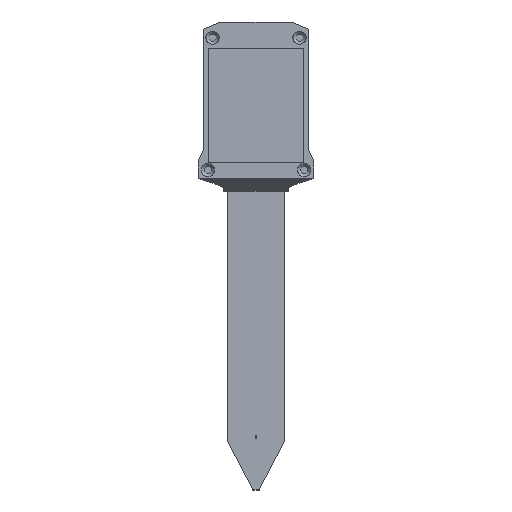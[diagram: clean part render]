
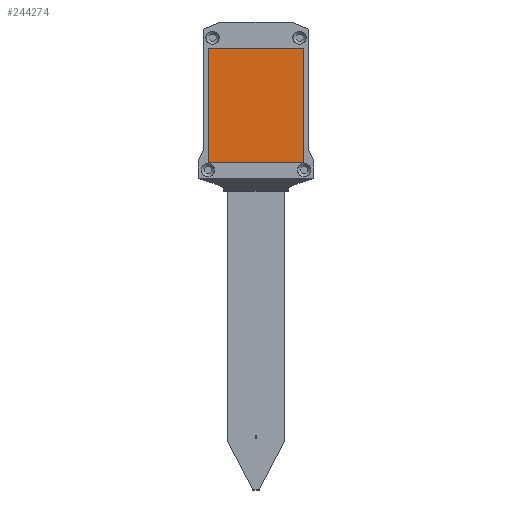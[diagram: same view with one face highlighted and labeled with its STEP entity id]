
A CAD part, top view. The second image highlights one B-rep face of the part: STEP entity #244274.
In plain terms, the highlighted planar face has unit normal (0, 0, 1).
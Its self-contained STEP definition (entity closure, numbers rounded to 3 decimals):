
#243960 = VERTEX_POINT('',#243961);
#243961 = CARTESIAN_POINT('',(-15.,104.,6.3));
#243968 = PLANE('',#243969);
#243969 = AXIS2_PLACEMENT_3D('',#243970,#243971,#243972);
#243970 = CARTESIAN_POINT('',(-15.,104.,4.9));
#243971 = DIRECTION('',(1.,0.,-0.));
#243972 = DIRECTION('',(0.,0.,1.));
#243980 = PLANE('',#243981);
#243981 = AXIS2_PLACEMENT_3D('',#243982,#243983,#243984);
#243982 = CARTESIAN_POINT('',(-15.,104.,4.9));
#243983 = DIRECTION('',(-0.,1.,0.));
#243984 = DIRECTION('',(0.,0.,1.));
#244021 = VERTEX_POINT('',#244022);
#244022 = CARTESIAN_POINT('',(-15.,140.,6.3));
#244036 = PLANE('',#244037);
#244037 = AXIS2_PLACEMENT_3D('',#244038,#244039,#244040);
#244038 = CARTESIAN_POINT('',(-15.,140.,4.9));
#244039 = DIRECTION('',(-0.,1.,0.));
#244040 = DIRECTION('',(0.,0.,1.));
#244048 = EDGE_CURVE('',#243960,#244021,#244049,.T.);
#244049 = SURFACE_CURVE('',#244050,(#244054,#244061),.PCURVE_S1.);
#244050 = LINE('',#244051,#244052);
#244051 = CARTESIAN_POINT('',(-15.,104.,6.3));
#244052 = VECTOR('',#244053,1.);
#244053 = DIRECTION('',(-0.,1.,0.));
#244054 = PCURVE('',#243968,#244055);
#244055 = DEFINITIONAL_REPRESENTATION('',(#244056),#244060);
#244056 = LINE('',#244057,#244058);
#244057 = CARTESIAN_POINT('',(1.4,0.));
#244058 = VECTOR('',#244059,1.);
#244059 = DIRECTION('',(0.,-1.));
#244060 = ( GEOMETRIC_REPRESENTATION_CONTEXT(2) 
PARAMETRIC_REPRESENTATION_CONTEXT() REPRESENTATION_CONTEXT('2D SPACE',''
  ) );
#244061 = PCURVE('',#244062,#244067);
#244062 = PLANE('',#244063);
#244063 = AXIS2_PLACEMENT_3D('',#244064,#244065,#244066);
#244064 = CARTESIAN_POINT('',(-15.,104.,6.3));
#244065 = DIRECTION('',(0.,0.,1.));
#244066 = DIRECTION('',(1.,0.,-0.));
#244067 = DEFINITIONAL_REPRESENTATION('',(#244068),#244072);
#244068 = LINE('',#244069,#244070);
#244069 = CARTESIAN_POINT('',(0.,0.));
#244070 = VECTOR('',#244071,1.);
#244071 = DIRECTION('',(0.,1.));
#244072 = ( GEOMETRIC_REPRESENTATION_CONTEXT(2) 
PARAMETRIC_REPRESENTATION_CONTEXT() REPRESENTATION_CONTEXT('2D SPACE',''
  ) );
#244080 = VERTEX_POINT('',#244081);
#244081 = CARTESIAN_POINT('',(15.,104.,6.3));
#244088 = PLANE('',#244089);
#244089 = AXIS2_PLACEMENT_3D('',#244090,#244091,#244092);
#244090 = CARTESIAN_POINT('',(15.,104.,4.9));
#244091 = DIRECTION('',(1.,0.,-0.));
#244092 = DIRECTION('',(0.,0.,1.));
#244131 = VERTEX_POINT('',#244132);
#244132 = CARTESIAN_POINT('',(15.,140.,6.3));
#244153 = EDGE_CURVE('',#244080,#244131,#244154,.T.);
#244154 = SURFACE_CURVE('',#244155,(#244159,#244166),.PCURVE_S1.);
#244155 = LINE('',#244156,#244157);
#244156 = CARTESIAN_POINT('',(15.,104.,6.3));
#244157 = VECTOR('',#244158,1.);
#244158 = DIRECTION('',(-0.,1.,0.));
#244159 = PCURVE('',#244088,#244160);
#244160 = DEFINITIONAL_REPRESENTATION('',(#244161),#244165);
#244161 = LINE('',#244162,#244163);
#244162 = CARTESIAN_POINT('',(1.4,0.));
#244163 = VECTOR('',#244164,1.);
#244164 = DIRECTION('',(0.,-1.));
#244165 = ( GEOMETRIC_REPRESENTATION_CONTEXT(2) 
PARAMETRIC_REPRESENTATION_CONTEXT() REPRESENTATION_CONTEXT('2D SPACE',''
  ) );
#244166 = PCURVE('',#244062,#244167);
#244167 = DEFINITIONAL_REPRESENTATION('',(#244168),#244172);
#244168 = LINE('',#244169,#244170);
#244169 = CARTESIAN_POINT('',(30.,0.));
#244170 = VECTOR('',#244171,1.);
#244171 = DIRECTION('',(0.,1.));
#244172 = ( GEOMETRIC_REPRESENTATION_CONTEXT(2) 
PARAMETRIC_REPRESENTATION_CONTEXT() REPRESENTATION_CONTEXT('2D SPACE',''
  ) );
#244199 = EDGE_CURVE('',#243960,#244080,#244200,.T.);
#244200 = SURFACE_CURVE('',#244201,(#244205,#244212),.PCURVE_S1.);
#244201 = LINE('',#244202,#244203);
#244202 = CARTESIAN_POINT('',(-15.,104.,6.3));
#244203 = VECTOR('',#244204,1.);
#244204 = DIRECTION('',(1.,0.,-0.));
#244205 = PCURVE('',#243980,#244206);
#244206 = DEFINITIONAL_REPRESENTATION('',(#244207),#244211);
#244207 = LINE('',#244208,#244209);
#244208 = CARTESIAN_POINT('',(1.4,0.));
#244209 = VECTOR('',#244210,1.);
#244210 = DIRECTION('',(0.,1.));
#244211 = ( GEOMETRIC_REPRESENTATION_CONTEXT(2) 
PARAMETRIC_REPRESENTATION_CONTEXT() REPRESENTATION_CONTEXT('2D SPACE',''
  ) );
#244212 = PCURVE('',#244062,#244213);
#244213 = DEFINITIONAL_REPRESENTATION('',(#244214),#244218);
#244214 = LINE('',#244215,#244216);
#244215 = CARTESIAN_POINT('',(0.,0.));
#244216 = VECTOR('',#244217,1.);
#244217 = DIRECTION('',(1.,0.));
#244218 = ( GEOMETRIC_REPRESENTATION_CONTEXT(2) 
PARAMETRIC_REPRESENTATION_CONTEXT() REPRESENTATION_CONTEXT('2D SPACE',''
  ) );
#244246 = EDGE_CURVE('',#244021,#244131,#244247,.T.);
#244247 = SURFACE_CURVE('',#244248,(#244252,#244259),.PCURVE_S1.);
#244248 = LINE('',#244249,#244250);
#244249 = CARTESIAN_POINT('',(-15.,140.,6.3));
#244250 = VECTOR('',#244251,1.);
#244251 = DIRECTION('',(1.,0.,-0.));
#244252 = PCURVE('',#244036,#244253);
#244253 = DEFINITIONAL_REPRESENTATION('',(#244254),#244258);
#244254 = LINE('',#244255,#244256);
#244255 = CARTESIAN_POINT('',(1.4,0.));
#244256 = VECTOR('',#244257,1.);
#244257 = DIRECTION('',(0.,1.));
#244258 = ( GEOMETRIC_REPRESENTATION_CONTEXT(2) 
PARAMETRIC_REPRESENTATION_CONTEXT() REPRESENTATION_CONTEXT('2D SPACE',''
  ) );
#244259 = PCURVE('',#244062,#244260);
#244260 = DEFINITIONAL_REPRESENTATION('',(#244261),#244265);
#244261 = LINE('',#244262,#244263);
#244262 = CARTESIAN_POINT('',(0.,36.));
#244263 = VECTOR('',#244264,1.);
#244264 = DIRECTION('',(1.,0.));
#244265 = ( GEOMETRIC_REPRESENTATION_CONTEXT(2) 
PARAMETRIC_REPRESENTATION_CONTEXT() REPRESENTATION_CONTEXT('2D SPACE',''
  ) );
#244274 = ADVANCED_FACE('',(#244275),#244062,.T.);
#244275 = FACE_BOUND('',#244276,.T.);
#244276 = EDGE_LOOP('',(#244277,#244278,#244279,#244280));
#244277 = ORIENTED_EDGE('',*,*,#244048,.F.);
#244278 = ORIENTED_EDGE('',*,*,#244199,.T.);
#244279 = ORIENTED_EDGE('',*,*,#244153,.T.);
#244280 = ORIENTED_EDGE('',*,*,#244246,.F.);
